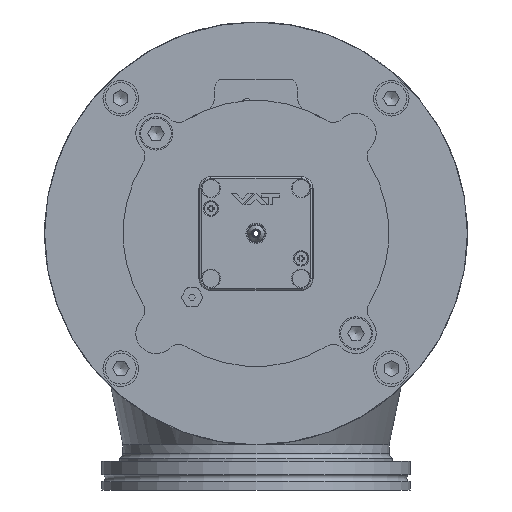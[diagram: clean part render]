
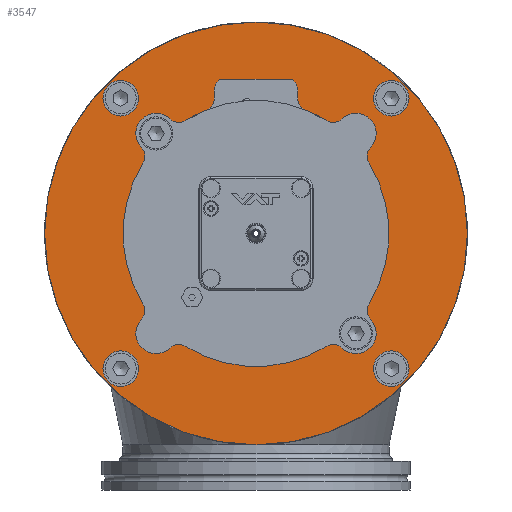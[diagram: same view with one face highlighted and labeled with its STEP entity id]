
A CAD part, left-side view. The second image highlights one B-rep face of the part: STEP entity #3547.
In plain terms, the highlighted planar face has unit normal (-1, 0, 0).
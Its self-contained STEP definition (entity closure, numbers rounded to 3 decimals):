
#3547=ADVANCED_FACE('BCT_REF_77270',(#5164,#5165,#5166,#5167,#5168,#5169,
#5170,#5171,#5172,#5173),#4035,.F.);
#4035=PLANE('',#14465);
#4552=CIRCLE('',#14403,89.);
#4583=CIRCLE('',#14456,3.4);
#4584=CIRCLE('',#14457,3.4);
#4585=CIRCLE('',#14458,3.4);
#4586=CIRCLE('',#14459,3.4);
#4587=CIRCLE('',#14460,7.5);
#4588=CIRCLE('',#14461,7.5);
#4589=CIRCLE('',#14462,7.5);
#4590=CIRCLE('',#14463,7.5);
#4591=CIRCLE('',#14464,55.145);
#5164=FACE_BOUND('',#5943,.T.);
#5165=FACE_BOUND('',#5944,.T.);
#5166=FACE_BOUND('',#5945,.T.);
#5167=FACE_BOUND('',#5946,.T.);
#5168=FACE_BOUND('',#5947,.T.);
#5169=FACE_BOUND('',#5948,.T.);
#5170=FACE_BOUND('',#5949,.T.);
#5171=FACE_BOUND('',#5950,.T.);
#5172=FACE_BOUND('',#5951,.T.);
#5173=FACE_BOUND('',#5952,.T.);
#5943=EDGE_LOOP('',(#8031));
#5944=EDGE_LOOP('',(#8032));
#5945=EDGE_LOOP('',(#8033));
#5946=EDGE_LOOP('',(#8034));
#5947=EDGE_LOOP('',(#8035));
#5948=EDGE_LOOP('',(#8036));
#5949=EDGE_LOOP('',(#8037));
#5950=EDGE_LOOP('',(#8038));
#5951=EDGE_LOOP('',(#8039));
#5952=EDGE_LOOP('',(#8040));
#8031=ORIENTED_EDGE('',*,*,#11489,.T.);
#8032=ORIENTED_EDGE('',*,*,#11490,.T.);
#8033=ORIENTED_EDGE('',*,*,#11491,.T.);
#8034=ORIENTED_EDGE('',*,*,#11492,.T.);
#8035=ORIENTED_EDGE('',*,*,#11493,.T.);
#8036=ORIENTED_EDGE('',*,*,#11494,.T.);
#8037=ORIENTED_EDGE('',*,*,#11495,.T.);
#8038=ORIENTED_EDGE('',*,*,#11496,.T.);
#8039=ORIENTED_EDGE('',*,*,#11497,.T.);
#8040=ORIENTED_EDGE('',*,*,#11450,.T.);
#10097=VERTEX_POINT('',#23110);
#10132=VERTEX_POINT('',#23299);
#10133=VERTEX_POINT('',#23301);
#10134=VERTEX_POINT('',#23303);
#10135=VERTEX_POINT('',#23305);
#10136=VERTEX_POINT('',#23307);
#10137=VERTEX_POINT('',#23309);
#10138=VERTEX_POINT('',#23311);
#10139=VERTEX_POINT('',#23313);
#10140=VERTEX_POINT('',#23315);
#11450=EDGE_CURVE('',#10097,#10097,#4552,.T.);
#11489=EDGE_CURVE('',#10132,#10132,#4583,.T.);
#11490=EDGE_CURVE('',#10133,#10133,#4584,.T.);
#11491=EDGE_CURVE('',#10134,#10134,#4585,.T.);
#11492=EDGE_CURVE('BCT_REF_77872',#10135,#10135,#4586,.T.);
#11493=EDGE_CURVE('BCT_REF_108915',#10136,#10136,#4587,.T.);
#11494=EDGE_CURVE('',#10137,#10137,#4588,.T.);
#11495=EDGE_CURVE('',#10138,#10138,#4589,.T.);
#11496=EDGE_CURVE('',#10139,#10139,#4590,.T.);
#11497=EDGE_CURVE('BCT_REF_78328',#10140,#10140,#4591,.T.);
#14403=AXIS2_PLACEMENT_3D('',#23109,#16640,#16641);
#14456=AXIS2_PLACEMENT_3D('',#23298,#16750,#16751);
#14457=AXIS2_PLACEMENT_3D('',#23300,#16752,#16753);
#14458=AXIS2_PLACEMENT_3D('',#23302,#16754,#16755);
#14459=AXIS2_PLACEMENT_3D('',#23304,#16756,#16757);
#14460=AXIS2_PLACEMENT_3D('',#23306,#16758,#16759);
#14461=AXIS2_PLACEMENT_3D('',#23308,#16760,#16761);
#14462=AXIS2_PLACEMENT_3D('',#23310,#16762,#16763);
#14463=AXIS2_PLACEMENT_3D('',#23312,#16764,#16765);
#14464=AXIS2_PLACEMENT_3D('',#23314,#16766,#16767);
#14465=AXIS2_PLACEMENT_3D('',#23316,#16768,#16769);
#16640=DIRECTION('',(-1.,0.,0.));
#16641=DIRECTION('',(0.,0.,1.));
#16750=DIRECTION('',(1.,0.,0.));
#16751=DIRECTION('',(0.,-1.,0.));
#16752=DIRECTION('',(1.,0.,0.));
#16753=DIRECTION('',(0.,0.,1.));
#16754=DIRECTION('',(1.,0.,0.));
#16755=DIRECTION('',(0.,1.,0.));
#16756=DIRECTION('',(1.,0.,0.));
#16757=DIRECTION('',(0.,0.,-1.));
#16758=DIRECTION('',(1.,0.,0.));
#16759=DIRECTION('',(0.,-1.,0.));
#16760=DIRECTION('',(1.,0.,0.));
#16761=DIRECTION('',(0.,0.,1.));
#16762=DIRECTION('',(1.,0.,0.));
#16763=DIRECTION('',(0.,1.,0.));
#16764=DIRECTION('',(1.,0.,0.));
#16765=DIRECTION('',(0.,0.,-1.));
#16766=DIRECTION('',(1.,0.,0.));
#16767=DIRECTION('',(0.,0.,-1.));
#16768=DIRECTION('',(1.,0.,0.));
#16769=DIRECTION('',(0.,0.,-1.));
#23109=CARTESIAN_POINT('',(0.,0.,0.));
#23110=CARTESIAN_POINT('',(0.,0.,89.));
#23298=CARTESIAN_POINT('',(0.,-42.073,-42.073));
#23299=CARTESIAN_POINT('',(0.,-45.473,-42.073));
#23300=CARTESIAN_POINT('',(0.,-42.073,42.073));
#23301=CARTESIAN_POINT('',(0.,-42.073,45.473));
#23302=CARTESIAN_POINT('',(0.,42.073,42.073));
#23303=CARTESIAN_POINT('',(0.,45.473,42.073));
#23304=CARTESIAN_POINT('',(0.,42.073,-42.073));
#23305=CARTESIAN_POINT('',(0.,42.073,-45.473));
#23306=CARTESIAN_POINT('',(0.,56.922,-56.922));
#23307=CARTESIAN_POINT('',(0.,49.422,-56.922));
#23308=CARTESIAN_POINT('',(0.,-56.922,-56.922));
#23309=CARTESIAN_POINT('',(0.,-56.922,-49.422));
#23310=CARTESIAN_POINT('',(0.,-56.922,56.922));
#23311=CARTESIAN_POINT('',(0.,-49.422,56.922));
#23312=CARTESIAN_POINT('',(0.,56.922,56.922));
#23313=CARTESIAN_POINT('',(0.,56.922,49.422));
#23314=CARTESIAN_POINT('',(0.,0.,0.));
#23315=CARTESIAN_POINT('',(0.,0.,-55.145));
#23316=CARTESIAN_POINT('',(0.,89.,0.));
